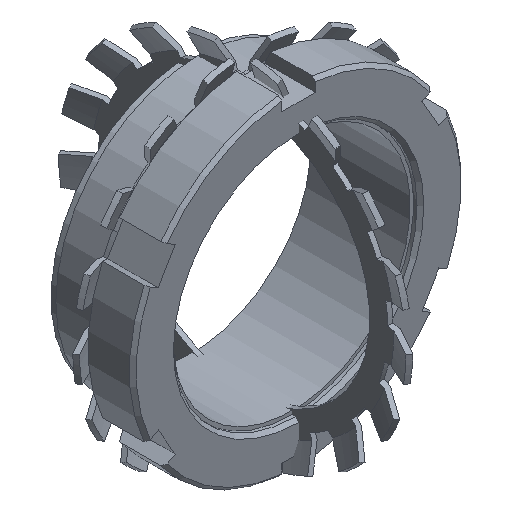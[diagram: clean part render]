
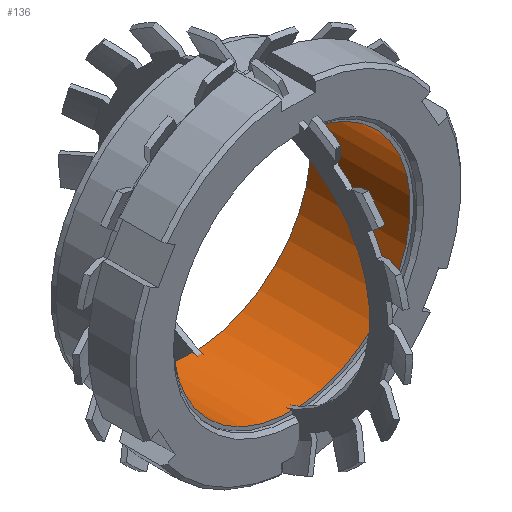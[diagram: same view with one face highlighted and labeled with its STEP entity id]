
A CAD part, isometric view. The second image highlights one B-rep face of the part: STEP entity #136.
In plain terms, the highlighted cylindrical face has radius 35 mm (diameter 70 mm), a partial arc.
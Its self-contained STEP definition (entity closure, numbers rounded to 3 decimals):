
#136 = ADVANCED_FACE( '', ( #280 ), #281, .F. );
#280 = FACE_OUTER_BOUND( '', #440, .T. );
#281 = CYLINDRICAL_SURFACE( '', #441, 35. );
#440 = EDGE_LOOP( '', ( #845, #846, #847, #848 ) );
#441 = AXIS2_PLACEMENT_3D( '', #849, #850, #851 );
#845 = ORIENTED_EDGE( '', *, *, #1386, .F. );
#846 = ORIENTED_EDGE( '', *, *, #1387, .F. );
#847 = ORIENTED_EDGE( '', *, *, #1347, .T. );
#848 = ORIENTED_EDGE( '', *, *, #1388, .T. );
#849 = CARTESIAN_POINT( '', ( 0., -60., 0. ) );
#850 = DIRECTION( '', ( 0., 1., 0. ) );
#851 = DIRECTION( '', ( 0., 0., -1. ) );
#1347 = EDGE_CURVE( '', #1777, #1788, #1790, .T. );
#1386 = EDGE_CURVE( '', #1844, #1845, #1846, .T. );
#1387 = EDGE_CURVE( '', #1777, #1844, #1847, .T. );
#1388 = EDGE_CURVE( '', #1788, #1845, #1848, .T. );
#1777 = VERTEX_POINT( '', #3109 );
#1788 = VERTEX_POINT( '', #3130 );
#1790 = LINE( '', #3133, #3134 );
#1844 = VERTEX_POINT( '', #3213 );
#1845 = VERTEX_POINT( '', #3214 );
#1846 = LINE( '', #3215, #3216 );
#1847 = CIRCLE( '', #3217, 35. );
#1848 = CIRCLE( '', #3218, 35. );
#3109 = CARTESIAN_POINT( '', ( -4., 15., 34.771 ) );
#3130 = CARTESIAN_POINT( '', ( -4., -14.5, 34.771 ) );
#3133 = CARTESIAN_POINT( '', ( -4., -60., 34.771 ) );
#3134 = VECTOR( '', #3691, 1000. );
#3213 = CARTESIAN_POINT( '', ( 4., 15., 34.771 ) );
#3214 = CARTESIAN_POINT( '', ( 4., -14.5, 34.771 ) );
#3215 = CARTESIAN_POINT( '', ( 4., -60., 34.771 ) );
#3216 = VECTOR( '', #3732, 1000. );
#3217 = AXIS2_PLACEMENT_3D( '', #3733, #3734, #3735 );
#3218 = AXIS2_PLACEMENT_3D( '', #3736, #3737, #3738 );
#3691 = DIRECTION( '', ( 0., -1., 0. ) );
#3732 = DIRECTION( '', ( 0., -1., 0. ) );
#3733 = CARTESIAN_POINT( '', ( 0., 15., 0. ) );
#3734 = DIRECTION( '', ( 0., -1., 0. ) );
#3735 = DIRECTION( '', ( 0., 0., -1. ) );
#3736 = CARTESIAN_POINT( '', ( 0., -14.5, 0. ) );
#3737 = DIRECTION( '', ( 0., -1., 0. ) );
#3738 = DIRECTION( '', ( 0., 0., -1. ) );
